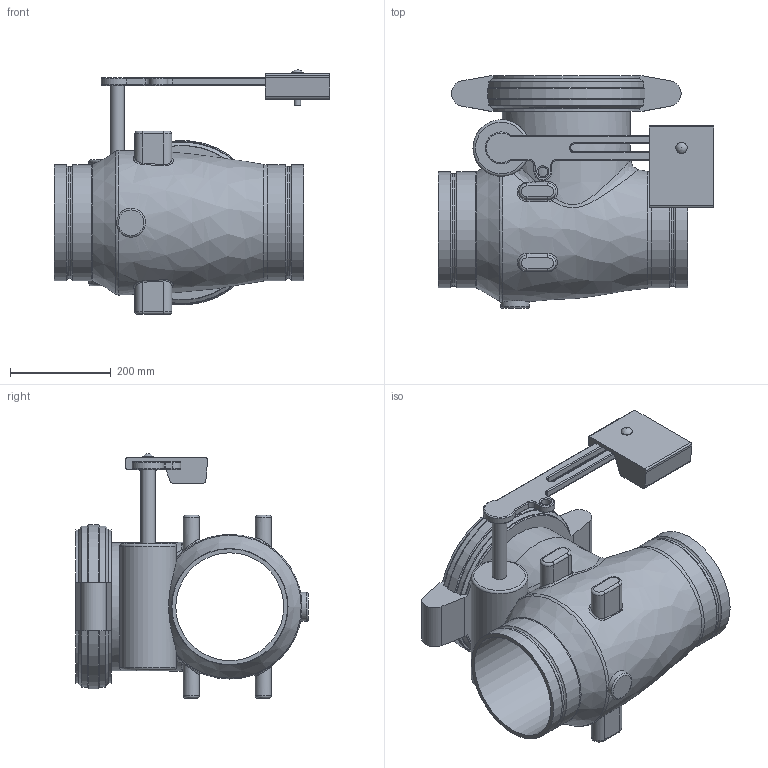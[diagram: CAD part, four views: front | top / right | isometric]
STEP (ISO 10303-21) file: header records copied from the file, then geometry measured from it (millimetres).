
FILE_DESCRIPTION(/* description */ ('VIC AWWA VALVE CHECK WEIGHT AND LEVER SERIES 317 (DRG)','CAx-IF Rec.Pracs.---Representation and Presentation of Product Manufacturing Information (PMI)---4.0---2014-10-13'),/* implementation_level */ '2;1');
FILE_NAME(/* name */ 'C:\Users\Vjadhav\Desktop\CAD for Inventor\1\317\STEP\Victaulic_AWWA_Valve Check Weight and Lever_Series 317 (DRG)\Victaulic_AWWA_Valve Check Weight and Lever_Series 317 (DRG)_8 (200).stp',/* time_stamp */ '2021-10-01T17:35:25+05:00',/* author */ ('jbrannon'),/* organization */ ('Victaulic'),/* preprocessor_version */ 'ST-DEVELOPER v17.2',/* originating_system */ 'Autodesk Inventor 2019',/* authorisation */ '');
FILE_SCHEMA (('AP242_MANAGED_MODEL_BASED_3D_ENGINEERING_MIM_LF { 1 0 10303 442 1 1 4 }'));
Length unit declared in the file: inch
Products named in the file (1): 317-08.0
Bounding box: 546.61 x 460.76 x 485.19 mm (x, y, z)
Volume: 23164087.2 mm3; surface area: 1230986.9 mm2
Topology: 1 solids, 1 shells, 221 faces, 584 edges, 370 vertices
Faces by surface type: cylinder 76, plane 59, torus 49, bspline 26, cone 10, sphere 1
Full cylindrical faces by diameter (mm): 12.7 x2, 19.177 x1, 22.225 x1, 28.575 x1, 34.925 x1, 57.15 x1, 112.268 x1, 214.122 x1, 223.037 x2, 229.87 x4, 254 x1
Entity records: 8931 total; most frequent: CARTESIAN_POINT 3181, ORIENTED_EDGE 1166, DIRECTION 1164, EDGE_CURVE 583, AXIS2_PLACEMENT_3D 480, VERTEX_POINT 370, CIRCLE 271, EDGE_LOOP 237
